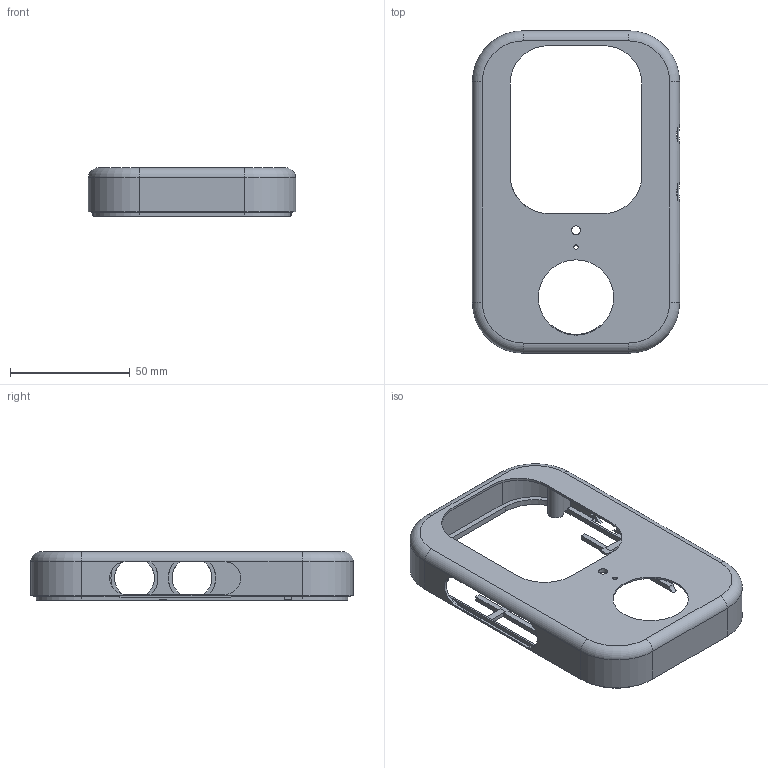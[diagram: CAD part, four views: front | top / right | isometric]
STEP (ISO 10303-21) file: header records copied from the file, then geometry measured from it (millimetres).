
FILE_DESCRIPTION(/* description */ ('EOS PA 2200, unfilled PA12; requested grade, RPS availability to confirm | SLS; finish critical fits; tap M2.5 x 0.45 pilots | 1.6 mm nominal main wall; integral PCB ledges, four screw towers and rear locating tongue.'),/* implementation_level */ '2;1');
FILE_NAME(/* name */ '01_front_structural_tub.step',/* time_stamp */ '2026-09-04T21:00:00-07:00',/* author */ (''),/* organization */ (''),/* preprocessor_version */ 'ST-DEVELOPER v20.1',/* originating_system */ 'Autodesk Translation Framework v15.8.0.0',/* authorisation */ '');
FILE_SCHEMA (('AUTOMOTIVE_DESIGN { 1 0 10303 214 3 1 1 }'));
Length unit declared in the file: centimetre
Products named in the file (2): 2026-09-04-20-59-59-976; 2026-09-04-20-59-59-977
Assembly tree (1 placements, depth 2):
  2026-09-04-20-59-59-976
    2026-09-04-20-59-59-977
Bounding box: 86.4 x 134.4 x 20.27 mm (x, y, z)
Volume: 23385.7 mm3; surface area: 31463.3 mm2
Topology: 1 solids, 1 shells, 280 faces, 860 edges, 568 vertices
Faces by surface type: plane 192, cylinder 80, torus 8
Full cylindrical faces by diameter (mm): 1.8 x1, 3.7 x1, 31.4 x1, 34.5 x1
Entity records: 9833 total; most frequent: CARTESIAN_POINT 1867, ORIENTED_EDGE 1720, DIRECTION 1632, EDGE_CURVE 860, LINE 618, VECTOR 618, VERTEX_POINT 568, AXIS2_PLACEMENT_3D 507
